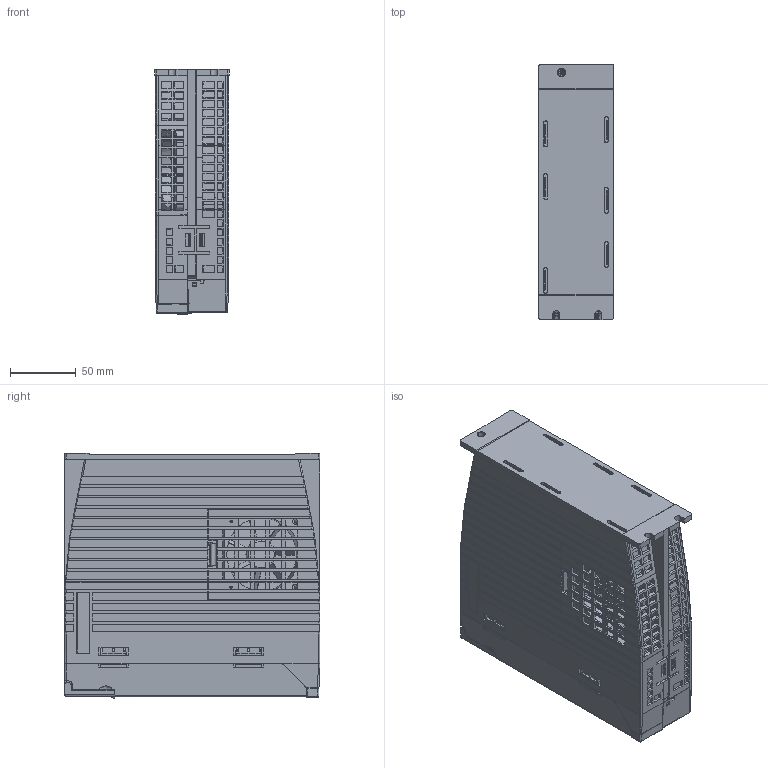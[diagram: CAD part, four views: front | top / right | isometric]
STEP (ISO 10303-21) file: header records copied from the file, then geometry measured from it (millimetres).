
FILE_DESCRIPTION((''),'2;1');
FILE_NAME('PRT0002','2021-11-08T16:05:52',('RD0058'),(''),'CREO PARAMETRIC BY PTC INC, 2016510','CREO PARAMETRIC BY PTC INC, 2016510','');
FILE_SCHEMA(('CONFIG_CONTROL_DESIGN','SHAPE_APPEARANCE_LAYERS_GROUPS'));
Products named in the file (1): PRT0002
Bounding box: 56.59 x 194.42 x 186.49 mm (x, y, z)
Volume: 1742684.3 mm3; surface area: 316387.2 mm2
Topology: 1 solids, 37 shells, 5458 faces, 15430 edges, 10105 vertices
Faces by surface type: plane 4242, cylinder 778, cone 207, bspline 166, torus 42, extrusion 13, sphere 10
Entity records: 209025 total; most frequent: CARTESIAN_POINT 42937, ORIENTED_EDGE 30832, DIRECTION 25491, EDGE_CURVE 15416, VECTOR 12357, LINE 12344, VERTEX_POINT 10105, AXIS2_PLACEMENT_3D 6567
